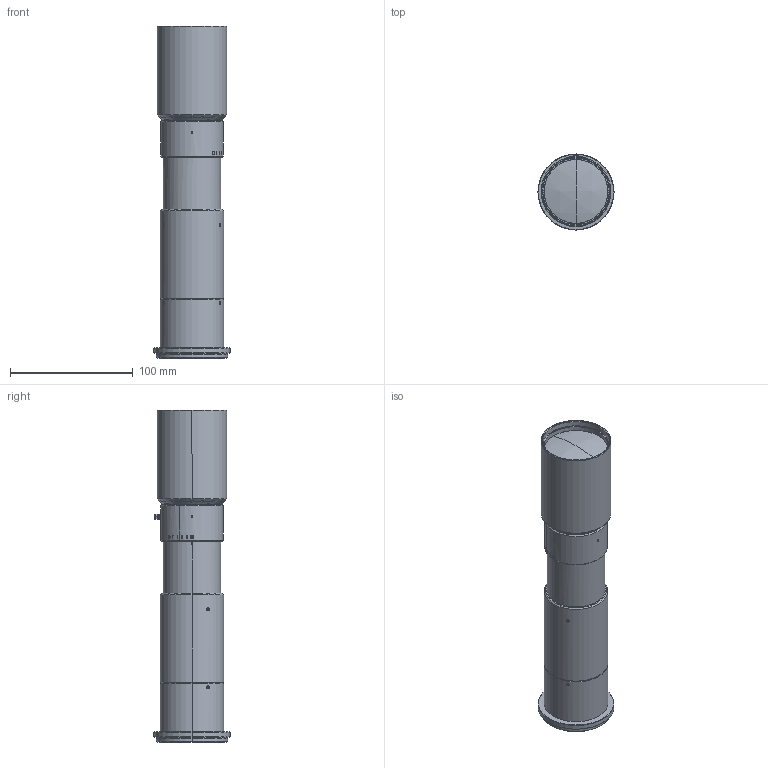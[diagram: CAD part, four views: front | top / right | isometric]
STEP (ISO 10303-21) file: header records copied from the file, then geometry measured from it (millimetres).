
FILE_DESCRIPTION (( 'STEP AP214' ), '1' );
FILE_NAME ('MML2-HR110VI-43M58-FB11.48.STEP', '2026-02-16T07:02:21', ( '' ), ( '' ), 'SwSTEP 2.0', 'SolidWorks 2025', '' );
FILE_SCHEMA (( 'AUTOMOTIVE_DESIGN' ));
Length unit declared in the file: millimetre
Products named in the file (1): MML2-HR110VI-43M58-FB11.48
Bounding box: 62 x 62 x 270.49 mm (x, y, z)
Volume: 431120 mm3; surface area: 70494.2 mm2
Topology: 1 solids, 2 shells, 568 faces, 1467 edges, 955 vertices
Faces by surface type: cylinder 205, plane 176, cone 117, bspline 64, sphere 4, torus 2
Entity records: 28270 total; most frequent: CARTESIAN_POINT 15317, ORIENTED_EDGE 2934, DIRECTION 2301, EDGE_CURVE 1467, VERTEX_POINT 955, AXIS2_PLACEMENT_3D 875, EDGE_LOOP 622, FACE_OUTER_BOUND 568
